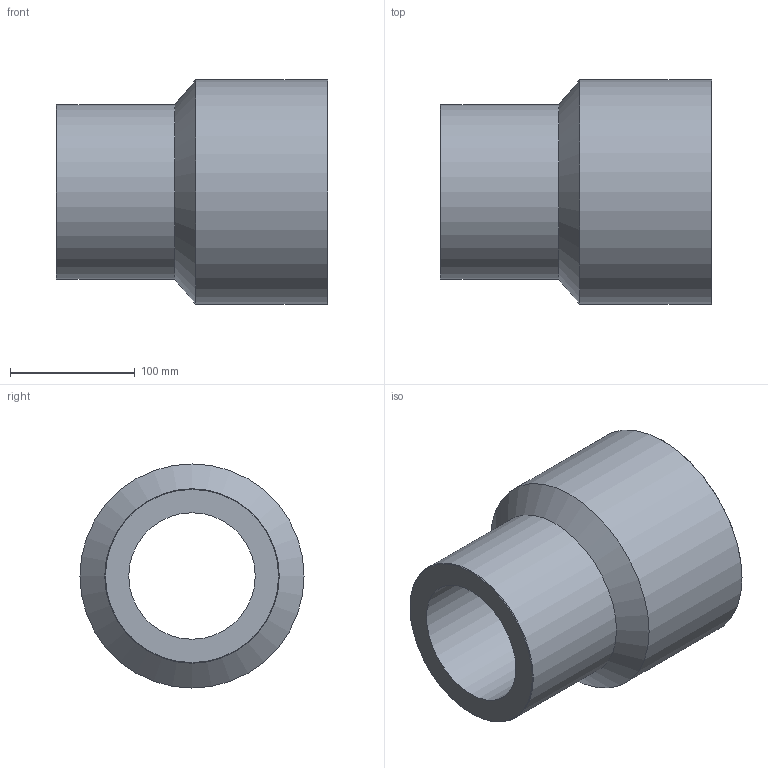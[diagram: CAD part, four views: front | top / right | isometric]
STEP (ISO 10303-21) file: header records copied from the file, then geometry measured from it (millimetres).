
FILE_DESCRIPTION(/* description */ ('Unknown'),/* implementation_level */ '2;1');
FILE_NAME(/* name */ 'RP180140H',/* time_stamp */ '2021-09-16T14:42:09+02:00',/* author */ ('Unknown'),/* organization */ ('Unknown'),/* preprocessor_version */ 'ST-DEVELOPER v16.7',/* originating_system */ 'Solid Edge',/* authorisation */ 'Unknown');
FILE_SCHEMA (('AUTOMOTIVE_DESIGN {1 0 10303 214 3 1 1}'));
Length unit declared in the file: millimetre
Products named in the file (1): RP180140H
Bounding box: 218 x 180 x 180 mm (x, y, z)
Volume: 2175899.8 mm3; surface area: 214851.2 mm2
Topology: 1 solids, 1 shells, 10 faces, 19 edges, 11 vertices
Faces by surface type: cylinder 4, cone 4, plane 2
Full cylindrical faces by diameter (mm): 101.6 x1, 130.8 x1, 140 x1, 180 x1
Entity records: 238 total; most frequent: DIRECTION 42, CARTESIAN_POINT 31, AXIS2_PLACEMENT_3D 21, ORIENTED_EDGE 20, EDGE_LOOP 20, FACE_BOUND 20, EDGE_CURVE 10, VERTEX_POINT 10
